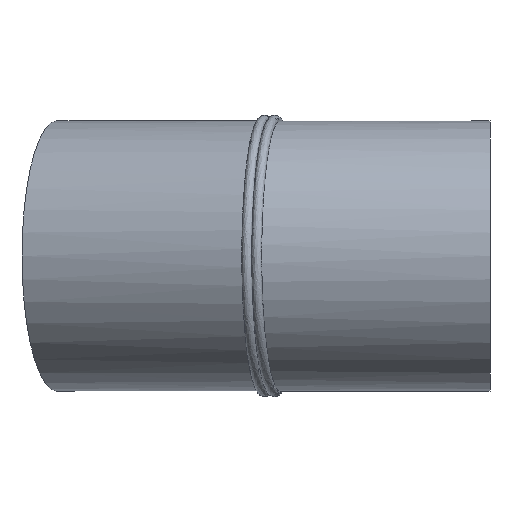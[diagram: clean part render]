
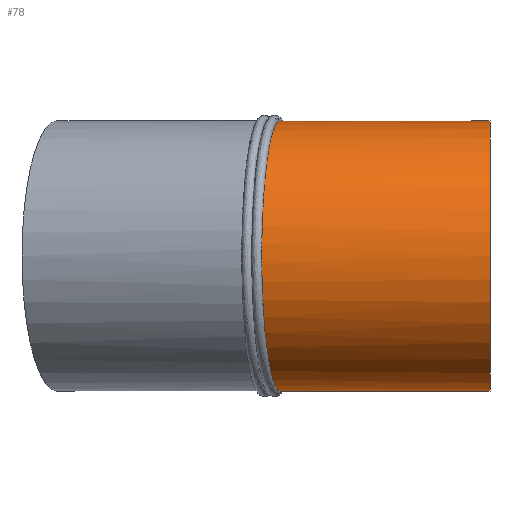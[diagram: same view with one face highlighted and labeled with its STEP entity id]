
A CAD part, left-side view. The second image highlights one B-rep face of the part: STEP entity #78.
In plain terms, the highlighted cylindrical face has radius 200 mm (diameter 400 mm), a full revolution.
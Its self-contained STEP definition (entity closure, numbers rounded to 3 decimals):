
#32=B_SPLINE_CURVE_WITH_KNOTS('',3,(#131,#132,#133,#134,#135,#136,#137,
#138,#139,#140,#141,#142,#143,#144,#145,#146,#147,#148,#149,#150,#151,#152,
#153,#154,#155,#156,#157,#158,#159,#160,#161,#162,#163,#164,#165,#166,#167,
#168,#169,#170,#171,#172,#173,#174,#175,#176,#177,#178,#179,#180,#181,#182,
#183,#184,#185,#186,#187,#188,#189,#190,#191,#192,#193,#194,#195,#196,#197,
#198,#199,#200,#201,#202,#203,#204,#205,#206,#207,#208,#209,#210,#211,#212,
#213,#214,#215,#216,#217),.UNSPECIFIED.,.T.,.F.,(1,1,1,1,1,1,1,1,1,1,1,
1,1,1,1,1,1,1,1,1,1,1,1,1,1,1,1,1,1,1,1,1,1,1,1,1,1,1,1,1,1,1,1,1,1,1,1,
1,1,1,1,1,1,1,1,1,1,1,1,1,1,1,1,1,1,1,1,1,1,1,1,1,1,1,1,1,1,1,1,1,1,1,1,
1,1,1,1,1,1,1,1),(-0.049,-0.04,-0.02,
0.,0.02,0.04,0.059,
0.069,0.079,0.099,0.119,
0.129,0.139,0.158,0.178,
0.188,0.198,0.208,0.218,
0.228,0.238,0.257,0.277,
0.297,0.307,0.317,0.327,
0.337,0.356,0.376,0.396,
0.416,0.426,0.436,0.455,0.475,
0.495,0.505,0.515,0.535,
0.554,0.574,0.594,0.614,
0.624,0.634,0.653,0.673,
0.693,0.713,0.723,0.733,
0.742,0.752,0.762,0.772,
0.792,0.812,0.831,0.851,
0.861,0.871,0.891,0.911,
0.93,0.95,0.97,0.99,
1.,1.01,1.029,1.049,1.069,
1.089,1.099,1.109,1.119,1.128,
1.148,1.168,1.178,1.188,1.198,
1.208,1.218,1.227,1.247,1.267,
1.287,1.307,1.326),.UNSPECIFIED.);
#34=ORIENTED_EDGE('',*,*,#44,.T.);
#35=ORIENTED_EDGE('',*,*,#45,.F.);
#44=EDGE_CURVE('',#49,#49,#54,.T.);
#45=EDGE_CURVE('',#50,#50,#32,.T.);
#49=VERTEX_POINT('',#130);
#50=VERTEX_POINT('',#218);
#54=CIRCLE('',#99,200.);
#56=EDGE_LOOP('',(#34));
#57=EDGE_LOOP('',(#35));
#66=FACE_BOUND('',#56,.T.);
#67=FACE_BOUND('',#57,.T.);
#76=CYLINDRICAL_SURFACE('',#98,200.);
#78=ADVANCED_FACE('',(#66,#67),#76,.T.);
#98=AXIS2_PLACEMENT_3D('',#128,#109,#110);
#99=AXIS2_PLACEMENT_3D('',#129,#111,#112);
#109=DIRECTION('',(0.,-1.,0.));
#110=DIRECTION('',(0.,0.,-1.));
#111=DIRECTION('',(0.,1.,0.));
#112=DIRECTION('',(1.,0.,0.));
#128=CARTESIAN_POINT('',(0.,650.,0.));
#129=CARTESIAN_POINT('',(0.,0.,0.));
#130=CARTESIAN_POINT('',(200.,0.,0.));
#131=CARTESIAN_POINT('',(19.55,308.732,-199.359));
#132=CARTESIAN_POINT('',(0.028,311.325,-200.322));
#133=CARTESIAN_POINT('',(-19.663,313.944,-199.353));
#134=CARTESIAN_POINT('',(-38.932,316.513,-196.494));
#135=CARTESIAN_POINT('',(-54.646,318.612,-192.581));
#136=CARTESIAN_POINT('',(-67.002,320.264,-188.528));
#137=CARTESIAN_POINT('',(-79.241,321.903,-183.837));
#138=CARTESIAN_POINT('',(-94.035,323.885,-176.879));
#139=CARTESIAN_POINT('',(-108.137,325.779,-168.468));
#140=CARTESIAN_POINT('',(-118.85,327.218,-160.956));
#141=CARTESIAN_POINT('',(-129.229,328.614,-152.89));
#142=CARTESIAN_POINT('',(-141.339,330.245,-141.951));
#143=CARTESIAN_POINT('',(-152.285,331.721,-129.937));
#144=CARTESIAN_POINT('',(-160.343,332.808,-119.676));
#145=CARTESIAN_POINT('',(-166.042,333.578,-111.636));
#146=CARTESIAN_POINT('',(-171.348,334.295,-103.307));
#147=CARTESIAN_POINT('',(-176.223,334.954,-94.752));
#148=CARTESIAN_POINT('',(-180.678,335.556,-85.953));
#149=CARTESIAN_POINT('',(-186.049,336.283,-73.902));
#150=CARTESIAN_POINT('',(-191.612,337.035,-58.439));
#151=CARTESIAN_POINT('',(-196.449,337.691,-39.219));
#152=CARTESIAN_POINT('',(-198.872,338.019,-22.934));
#153=CARTESIAN_POINT('',(-199.843,338.151,-9.765));
#154=CARTESIAN_POINT('',(-200.081,338.183,0.102));
#155=CARTESIAN_POINT('',(-199.833,338.149,9.98));
#156=CARTESIAN_POINT('',(-198.846,338.015,23.156));
#157=CARTESIAN_POINT('',(-196.409,337.686,39.422));
#158=CARTESIAN_POINT('',(-191.548,337.027,58.638));
#159=CARTESIAN_POINT('',(-184.923,336.131,77.005));
#160=CARTESIAN_POINT('',(-177.946,335.186,91.705));
#161=CARTESIAN_POINT('',(-171.486,334.314,103.077));
#162=CARTESIAN_POINT('',(-164.417,333.359,114.205));
#163=CARTESIAN_POINT('',(-154.628,332.037,127.356));
#164=CARTESIAN_POINT('',(-141.333,330.245,141.966));
#165=CARTESIAN_POINT('',(-129.177,328.607,152.934));
#166=CARTESIAN_POINT('',(-118.799,327.212,160.994));
#167=CARTESIAN_POINT('',(-108.089,325.772,168.498));
#168=CARTESIAN_POINT('',(-93.99,323.879,176.902));
#169=CARTESIAN_POINT('',(-76.246,321.501,185.244));
#170=CARTESIAN_POINT('',(-57.697,319.019,191.83));
#171=CARTESIAN_POINT('',(-38.859,316.504,196.506));
#172=CARTESIAN_POINT('',(-22.875,314.373,198.872));
#173=CARTESIAN_POINT('',(-9.933,312.65,199.833));
#174=CARTESIAN_POINT('',(3.153,310.91,200.162));
#175=CARTESIAN_POINT('',(19.448,308.745,199.374));
#176=CARTESIAN_POINT('',(38.898,306.168,196.507));
#177=CARTESIAN_POINT('',(57.902,303.653,191.77));
#178=CARTESIAN_POINT('',(73.351,301.613,186.265));
#179=CARTESIAN_POINT('',(85.297,300.037,180.987));
#180=CARTESIAN_POINT('',(94.083,298.88,176.581));
#181=CARTESIAN_POINT('',(102.645,297.752,171.745));
#182=CARTESIAN_POINT('',(110.939,296.661,166.507));
#183=CARTESIAN_POINT('',(118.977,295.604,160.863));
#184=CARTESIAN_POINT('',(129.348,294.242,152.789));
#185=CARTESIAN_POINT('',(141.49,292.649,141.81));
#186=CARTESIAN_POINT('',(154.771,290.909,127.179));
#187=CARTESIAN_POINT('',(166.392,289.388,111.533));
#188=CARTESIAN_POINT('',(174.778,288.292,97.607));
#189=CARTESIAN_POINT('',(180.681,287.521,85.946));
#190=CARTESIAN_POINT('',(186.053,286.819,73.894));
#191=CARTESIAN_POINT('',(191.615,286.094,58.429));
#192=CARTESIAN_POINT('',(196.453,285.462,39.194));
#193=CARTESIAN_POINT('',(199.345,285.086,19.756));
#194=CARTESIAN_POINT('',(200.327,284.957,0.02));
#195=CARTESIAN_POINT('',(199.348,285.085,-19.779));
#196=CARTESIAN_POINT('',(196.907,285.403,-36.101));
#197=CARTESIAN_POINT('',(194.006,285.782,-48.931));
#198=CARTESIAN_POINT('',(190.46,286.244,-61.653));
#199=CARTESIAN_POINT('',(184.889,286.971,-77.115));
#200=CARTESIAN_POINT('',(176.362,288.085,-95.005));
#201=CARTESIAN_POINT('',(166.264,289.405,-111.725));
#202=CARTESIAN_POINT('',(156.563,290.675,-124.748));
#203=CARTESIAN_POINT('',(148.033,291.792,-134.604));
#204=CARTESIAN_POINT('',(141.229,292.684,-141.728));
#205=CARTESIAN_POINT('',(134.082,293.621,-148.507));
#206=CARTESIAN_POINT('',(124.153,294.924,-157.039));
#207=CARTESIAN_POINT('',(110.928,296.662,-166.805));
#208=CARTESIAN_POINT('',(96.892,298.509,-175.177));
#209=CARTESIAN_POINT('',(85.159,300.055,-181.053));
#210=CARTESIAN_POINT('',(76.183,301.239,-185.009));
#211=CARTESIAN_POINT('',(67.037,302.447,-188.516));
#212=CARTESIAN_POINT('',(57.702,303.68,-191.579));
#213=CARTESIAN_POINT('',(48.249,304.93,-194.175));
#214=CARTESIAN_POINT('',(35.569,306.609,-196.999));
#215=CARTESIAN_POINT('',(19.55,308.732,-199.359));
#216=CARTESIAN_POINT('',(0.028,311.325,-200.322));
#217=CARTESIAN_POINT('',(-19.663,313.944,-199.353));
#218=CARTESIAN_POINT('',(0.,311.329,-200.));
